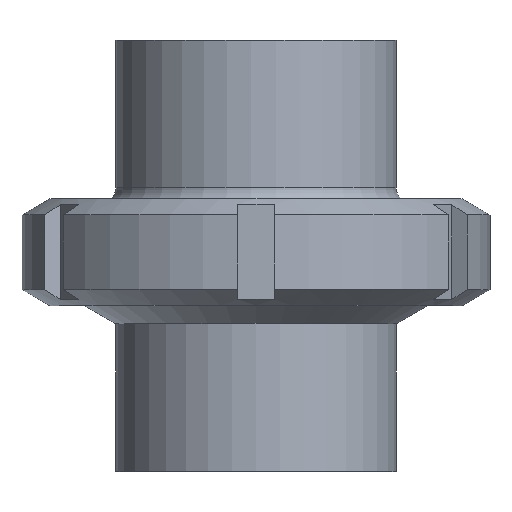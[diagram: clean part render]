
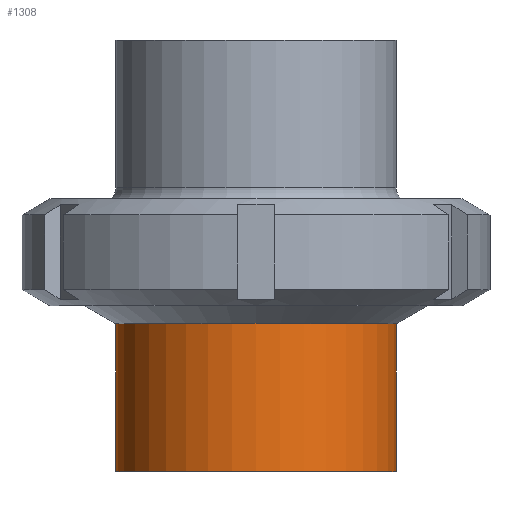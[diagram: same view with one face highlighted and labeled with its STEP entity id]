
A CAD part, top view. The second image highlights one B-rep face of the part: STEP entity #1308.
In plain terms, the highlighted cylindrical face has radius 38.05 mm (diameter 76.1 mm), a full revolution.
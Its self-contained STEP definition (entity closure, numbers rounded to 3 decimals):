
#79=CYLINDRICAL_SURFACE('',#1530,38.05);
#98=LINE('',#2201,#142);
#142=VECTOR('',#1788,38.05);
#246=FACE_OUTER_BOUND('',#317,.T.);
#317=EDGE_LOOP('',(#922,#923,#924,#925,#926,#927));
#416=CIRCLE('',#1528,38.05);
#417=CIRCLE('',#1529,38.05);
#418=CIRCLE('',#1531,38.05);
#419=CIRCLE('',#1532,38.05);
#529=VERTEX_POINT('',#2191);
#530=VERTEX_POINT('',#2192);
#531=VERTEX_POINT('',#2197);
#532=VERTEX_POINT('',#2198);
#682=EDGE_CURVE('',#529,#530,#416,.T.);
#683=EDGE_CURVE('',#530,#529,#417,.T.);
#685=EDGE_CURVE('',#531,#532,#418,.T.);
#686=EDGE_CURVE('',#532,#531,#419,.T.);
#687=EDGE_CURVE('',#532,#530,#98,.T.);
#922=ORIENTED_EDGE('',*,*,#685,.F.);
#923=ORIENTED_EDGE('',*,*,#686,.F.);
#924=ORIENTED_EDGE('',*,*,#687,.T.);
#925=ORIENTED_EDGE('',*,*,#683,.T.);
#926=ORIENTED_EDGE('',*,*,#682,.T.);
#927=ORIENTED_EDGE('',*,*,#687,.F.);
#1308=ADVANCED_FACE('',(#246),#79,.T.);
#1528=AXIS2_PLACEMENT_3D('',#2193,#1777,#1778);
#1529=AXIS2_PLACEMENT_3D('',#2194,#1779,#1780);
#1530=AXIS2_PLACEMENT_3D('',#2196,#1782,#1783);
#1531=AXIS2_PLACEMENT_3D('',#2199,#1784,#1785);
#1532=AXIS2_PLACEMENT_3D('',#2200,#1786,#1787);
#1777=DIRECTION('center_axis',(0.,-1.,0.));
#1778=DIRECTION('ref_axis',(1.,0.,0.));
#1779=DIRECTION('center_axis',(0.,-1.,0.));
#1780=DIRECTION('ref_axis',(1.,0.,0.));
#1782=DIRECTION('center_axis',(0.,-1.,0.));
#1783=DIRECTION('ref_axis',(1.,0.,0.));
#1784=DIRECTION('center_axis',(0.,-1.,0.));
#1785=DIRECTION('ref_axis',(1.,0.,0.));
#1786=DIRECTION('center_axis',(0.,-1.,0.));
#1787=DIRECTION('ref_axis',(1.,0.,0.));
#1788=DIRECTION('',(0.,1.,0.));
#2191=CARTESIAN_POINT('',(38.05,40.121,0.));
#2192=CARTESIAN_POINT('',(-38.05,40.121,0.));
#2193=CARTESIAN_POINT('Origin',(0.,40.121,0.));
#2194=CARTESIAN_POINT('Origin',(0.,40.121,0.));
#2196=CARTESIAN_POINT('Origin',(0.,20.061,0.));
#2197=CARTESIAN_POINT('',(38.05,0.,0.));
#2198=CARTESIAN_POINT('',(-38.05,0.,0.));
#2199=CARTESIAN_POINT('Origin',(0.,0.,0.));
#2200=CARTESIAN_POINT('Origin',(0.,0.,0.));
#2201=CARTESIAN_POINT('',(-38.05,20.061,0.));
